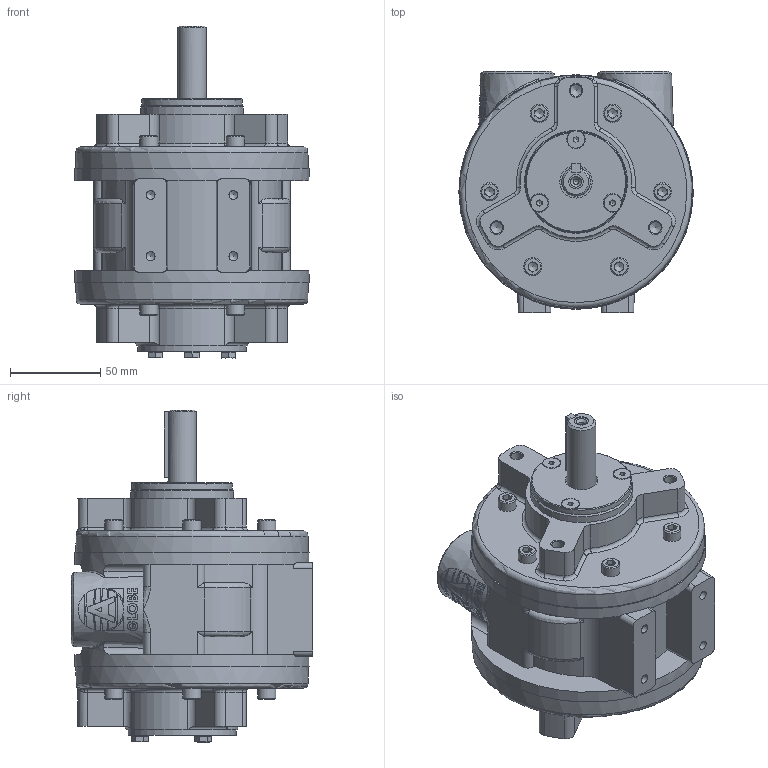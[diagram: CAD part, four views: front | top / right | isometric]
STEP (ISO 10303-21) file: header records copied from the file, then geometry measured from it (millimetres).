
FILE_DESCRIPTION (( 'STEP AP214' ), '1' );
FILE_NAME ('VA6X Defeature + Logo.STEP', '2023-05-23T10:28:27', ( '' ), ( '' ), 'SwSTEP 2.0', 'SolidWorks 2022', '' );
FILE_SCHEMA (( 'AUTOMOTIVE_DESIGN' ));
Length unit declared in the file: millimetre
Products named in the file (1): VA6X Defeature + Logo
Bounding box: 130 x 134 x 184.25 mm (x, y, z)
Volume: 1264533.6 mm3; surface area: 101600.7 mm2
Topology: 1 solids, 4 shells, 748 faces, 1840 edges, 1133 vertices
Faces by surface type: plane 319, cylinder 138, bspline 135, cone 97, torus 52, sphere 7
Full cylindrical faces by diameter (mm): 3 x1, 5 x7, 5.5 x3, 6.528 x3, 8 x4, 9.64 x3, 10 x12, 15.875 x1, 18 x1, 24.117 x2, 56 x1, 57.15 x1, 60 x1, 128 x2, 129 x2, 130 x2
Entity records: 43074 total; most frequent: CARTESIAN_POINT 23295, ORIENTED_EDGE 3336, DIRECTION 2909, EDGE_CURVE 1668, AXIS2_PLACEMENT_3D 1125, VERTEX_POINT 1070, EDGE_LOOP 896, FACE_OUTER_BOUND 797
